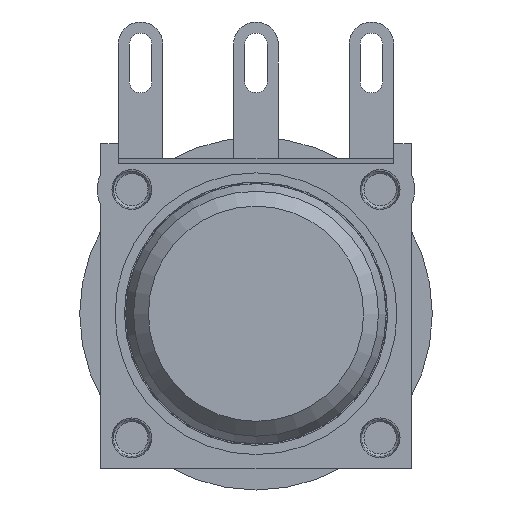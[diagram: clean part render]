
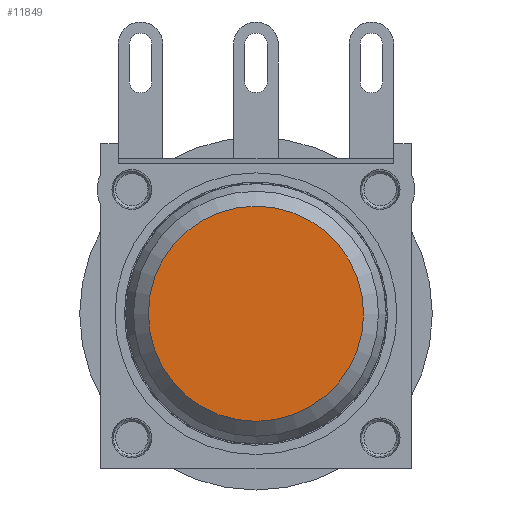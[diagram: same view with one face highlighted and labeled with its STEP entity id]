
A CAD part, left-side view. The second image highlights one B-rep face of the part: STEP entity #11849.
In plain terms, the highlighted planar face has unit normal (-1, 0, 0) as drawn and (0, 0, 1) by its records, which use the part's own axes.
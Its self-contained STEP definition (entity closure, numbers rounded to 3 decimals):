
#2977=PLANE('',#13434);
#4839=ORIENTED_EDGE('',*,*,#7508,.T.);
#7508=EDGE_CURVE('',#9006,#9006,#9880,.T.);
#9006=VERTEX_POINT('',#18491);
#9880=CIRCLE('',#13433,4.334);
#10403=EDGE_LOOP('',(#4839));
#11174=FACE_BOUND('',#10403,.T.);
#11849=ADVANCED_FACE('',(#11174),#2977,.T.);
#13433=AXIS2_PLACEMENT_3D('',#18490,#15528,#15529);
#13434=AXIS2_PLACEMENT_3D('',#18492,#15530,#15531);
#15528=DIRECTION('',(0.,0.,1.));
#15529=DIRECTION('',(1.,0.,0.));
#15530=DIRECTION('',(0.,0.,1.));
#15531=DIRECTION('',(1.,0.,0.));
#18490=CARTESIAN_POINT('',(0.,0.,1.4));
#18491=CARTESIAN_POINT('',(4.334,0.,1.4));
#18492=CARTESIAN_POINT('',(0.,0.,1.4));
